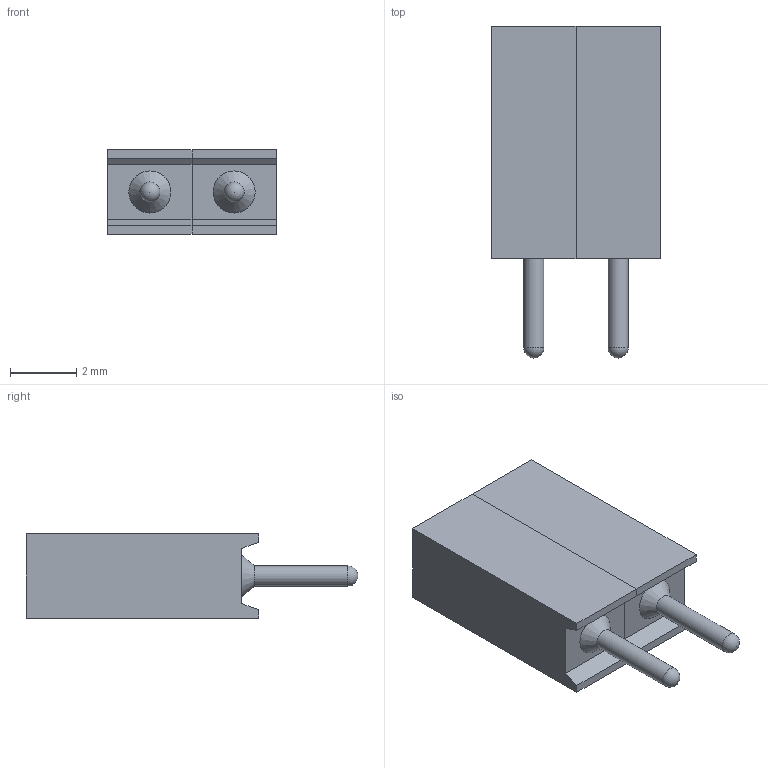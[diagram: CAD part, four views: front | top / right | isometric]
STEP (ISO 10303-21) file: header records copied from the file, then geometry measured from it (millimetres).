
FILE_DESCRIPTION(/* description */ (''),/* implementation_level */ '2;1');
FILE_NAME(/* name */ 'C:/Users/Nicholas/Downloads/FE02 v1.step',/* time_stamp */ '2021-06-05T21:20:31-07:00',/* author */ (''),/* organization */ (''),/* preprocessor_version */ 'ST-DEVELOPER v18.1',/* originating_system */ 'Autodesk Translation Framework v10.9.0.1377',/* authorisation */ '');
FILE_SCHEMA (('AUTOMOTIVE_DESIGN { 1 0 10303 214 3 1 1 }'));
Length unit declared in the file: inch
Products named in the file (1): FE02
Bounding box: 5.08 x 10.01 x 2.54 mm (x, y, z)
Volume: 72.3 mm3; surface area: 229.4 mm2
Topology: 2 solids, 2 shells, 30 faces, 74 edges, 48 vertices
Faces by surface type: plane 20, cone 4, cylinder 4, sphere 2
Full cylindrical faces by diameter (mm): 0.61 x2, 1.27 x2
Entity records: 918 total; most frequent: CARTESIAN_POINT 149, DIRECTION 146, ORIENTED_EDGE 140, EDGE_CURVE 70, LINE 56, VECTOR 56, VERTEX_POINT 48, AXIS2_PLACEMENT_3D 45
